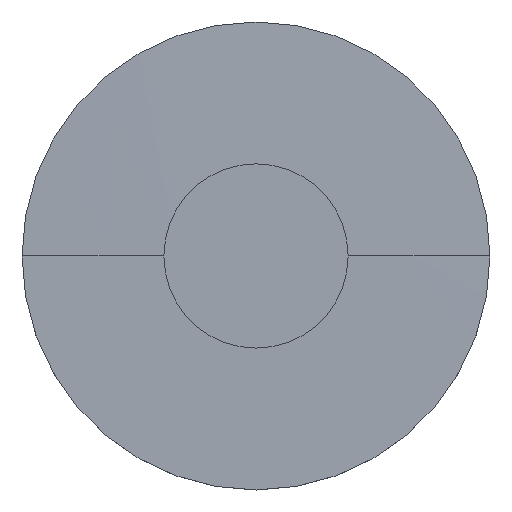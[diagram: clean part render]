
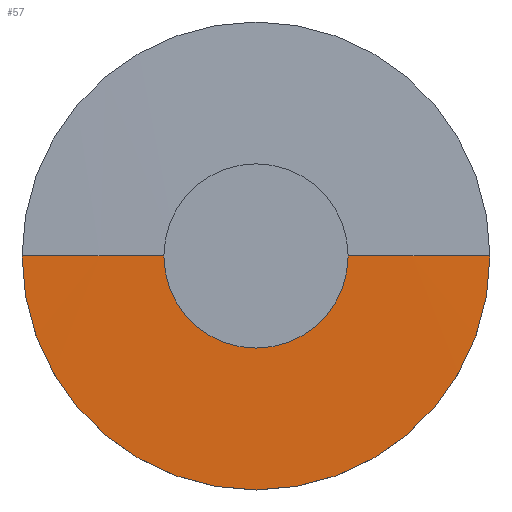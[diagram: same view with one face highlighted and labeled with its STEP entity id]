
A CAD part, top view. The second image highlights one B-rep face of the part: STEP entity #57.
In plain terms, the highlighted spherical face has radius 2000 mm.
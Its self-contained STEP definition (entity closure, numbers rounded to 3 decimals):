
#57=ADVANCED_FACE('',(#71),#72,.T.);
#71=FACE_OUTER_BOUND('',#91,.T.);
#72=SPHERICAL_SURFACE('',#92,2000.0);
#91=EDGE_LOOP('',(#124,#125,#126));
#92=AXIS2_PLACEMENT_3D('',#127,#128,#129);
#124=ORIENTED_EDGE('',*,*,#173,.T.);
#125=ORIENTED_EDGE('',*,*,#174,.T.);
#126=ORIENTED_EDGE('',*,*,#175,.T.);
#127=CARTESIAN_POINT('',(0.0,0.0,-1994.5));
#128=DIRECTION('',(0.0,0.0,1.0));
#129=DIRECTION('',(1.0,0.0,0.0));
#173=EDGE_CURVE('',#189,#194,#195,.T.);
#174=EDGE_CURVE('',#194,#191,#196,.T.);
#175=EDGE_CURVE('',#191,#189,#197,.T.);
#189=VERTEX_POINT('',#215);
#191=VERTEX_POINT('',#218);
#194=VERTEX_POINT('',#222);
#195=CIRCLE('',#223,2000.0);
#196=CIRCLE('',#224,2000.0);
#197=CIRCLE('',#225,25.4);
#215=CARTESIAN_POINT('',(25.4,0.,5.339));
#218=CARTESIAN_POINT('',(-25.4,0.,5.339));
#222=CARTESIAN_POINT('',(0.0,0.0,5.5));
#223=AXIS2_PLACEMENT_3D('',#253,#254,#255);
#224=AXIS2_PLACEMENT_3D('',#256,#257,#258);
#225=AXIS2_PLACEMENT_3D('',#259,#260,#261);
#253=CARTESIAN_POINT('',(0.0,0.0,-1994.5));
#254=DIRECTION('',(0.,-1.0,0.0));
#255=DIRECTION('',(0.0,0.0,1.0));
#256=CARTESIAN_POINT('',(0.0,0.0,-1994.5));
#257=DIRECTION('',(0.,-1.0,0.0));
#258=DIRECTION('',(0.0,0.0,1.0));
#259=CARTESIAN_POINT('',(0.0,0.0,5.339));
#260=DIRECTION('',(0.0,0.0,1.0));
#261=DIRECTION('',(1.0,0.0,0.0));
